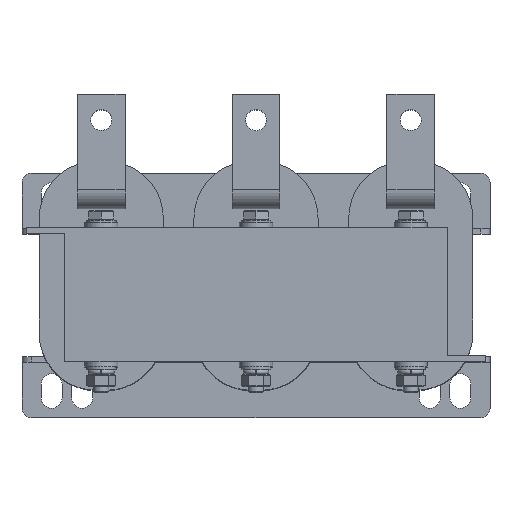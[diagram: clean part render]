
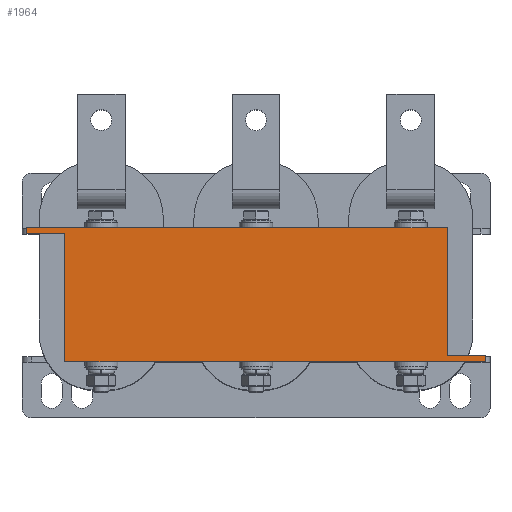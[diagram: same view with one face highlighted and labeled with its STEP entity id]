
A CAD part, top view. The second image highlights one B-rep face of the part: STEP entity #1964.
In plain terms, the highlighted planar face has unit normal (0, 0, 1).
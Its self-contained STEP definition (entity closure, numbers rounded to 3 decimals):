
#1964=ADVANCED_FACE('',(#2726),#2728,.T.);
#2726=FACE_BOUND('',#2727,.T.);
#2727=EDGE_LOOP('',(#3630,#3631,#3632,#3633,#3634,#3635,#3636,#3637));
#2728=PLANE('',#2729);
#2729=AXIS2_PLACEMENT_3D('',#2730,#2731,#2732);
#2730=CARTESIAN_POINT('',(0.,0.,40.));
#2731=DIRECTION('',(0.,0.,1.));
#2732=DIRECTION('',(-1.,0.,0.));
#3630=ORIENTED_EDGE('',*,*,#4072,.T.);
#3631=ORIENTED_EDGE('',*,*,#4091,.T.);
#3632=ORIENTED_EDGE('',*,*,#4061,.T.);
#3633=ORIENTED_EDGE('',*,*,#4092,.T.);
#3634=ORIENTED_EDGE('',*,*,#4053,.T.);
#3635=ORIENTED_EDGE('',*,*,#4093,.T.);
#3636=ORIENTED_EDGE('',*,*,#4042,.T.);
#3637=ORIENTED_EDGE('',*,*,#4090,.T.);
#4042=EDGE_CURVE('',#4496,#4494,#4497,.T.);
#4053=EDGE_CURVE('',#4518,#4516,#4519,.T.);
#4061=EDGE_CURVE('',#4534,#4532,#4535,.T.);
#4072=EDGE_CURVE('',#4556,#4554,#4557,.T.);
#4090=EDGE_CURVE('',#4494,#4556,#4579,.T.);
#4091=EDGE_CURVE('',#4554,#4534,#4580,.T.);
#4092=EDGE_CURVE('',#4532,#4518,#4581,.T.);
#4093=EDGE_CURVE('',#4516,#4496,#4582,.T.);
#4494=VERTEX_POINT('',#5450);
#4496=VERTEX_POINT('',#5454);
#4497=LINE('',#5455,#5456);
#4516=VERTEX_POINT('',#5499);
#4518=VERTEX_POINT('',#5503);
#4519=LINE('',#5504,#5505);
#4532=VERTEX_POINT('',#5533);
#4534=VERTEX_POINT('',#5537);
#4535=LINE('',#5538,#5539);
#4554=VERTEX_POINT('',#5582);
#4556=VERTEX_POINT('',#5586);
#4557=LINE('',#5587,#5588);
#4579=LINE('',#5647,#5648);
#4580=LINE('',#5650,#5651);
#4581=LINE('',#5653,#5654);
#4582=LINE('',#5656,#5657);
#5450=CARTESIAN_POINT('',(-120.,35.,40.));
#5454=CARTESIAN_POINT('',(100.,35.,40.));
#5455=CARTESIAN_POINT('',(100.,35.,40.));
#5456=VECTOR('',#5457,1.);
#5457=DIRECTION('',(-1.,0.,0.));
#5499=CARTESIAN_POINT('',(100.,-32.,40.));
#5503=CARTESIAN_POINT('',(120.,-32.,40.));
#5504=CARTESIAN_POINT('',(120.,-32.,40.));
#5505=VECTOR('',#5506,1.);
#5506=DIRECTION('',(-1.,0.,0.));
#5533=CARTESIAN_POINT('',(120.,-35.,40.));
#5537=CARTESIAN_POINT('',(-100.,-35.,40.));
#5538=CARTESIAN_POINT('',(-100.,-35.,40.));
#5539=VECTOR('',#5540,1.);
#5540=DIRECTION('',(1.,0.,0.));
#5582=CARTESIAN_POINT('',(-100.,32.,40.));
#5586=CARTESIAN_POINT('',(-120.,32.,40.));
#5587=CARTESIAN_POINT('',(-120.,32.,40.));
#5588=VECTOR('',#5589,1.);
#5589=DIRECTION('',(1.,0.,0.));
#5647=CARTESIAN_POINT('',(-120.,35.,40.));
#5648=VECTOR('',#5649,1.);
#5649=DIRECTION('',(0.,-1.,0.));
#5650=CARTESIAN_POINT('',(-100.,32.,40.));
#5651=VECTOR('',#5652,1.);
#5652=DIRECTION('',(0.,-1.,0.));
#5653=CARTESIAN_POINT('',(120.,-35.,40.));
#5654=VECTOR('',#5655,1.);
#5655=DIRECTION('',(0.,1.,0.));
#5656=CARTESIAN_POINT('',(100.,-32.,40.));
#5657=VECTOR('',#5658,1.);
#5658=DIRECTION('',(0.,1.,0.));
